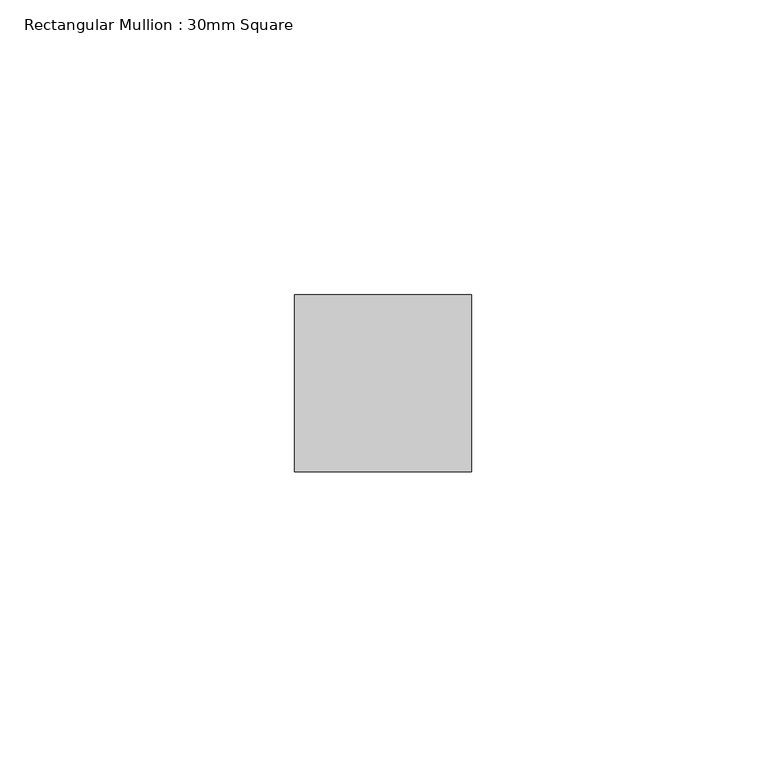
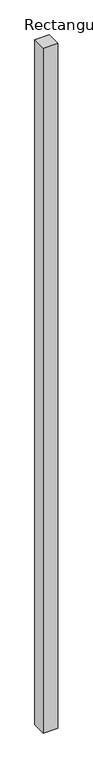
"""IFC4 building model written with IfcOpenShell, lengths in millimetres: member geometry, Rectangular Mullion : 30mm Square."""

from ifc_helpers import new_model, si_unit, frame, origin, place, context, project, spatial, polyline, outline, extrude, source, transform, mapped, element, save


def rectangular_mullion_30mm_square_0f531e6e(model_context):
    return source(origin(), model_context, "Body", "SweptSolid", [
        extrude(outline(polyline([(0.0, 15.0), (0.0, -15.0), (-30.0, -15.0), (-30.0, 15.0), (0.0, 15.0)])), frame((0.0, 0.0, -1494.0), z_axis=(0.0, 0.0, 1.0), x_axis=(1.0, 0.0, 0.0)), (0.0, 0.0, 1.0), 1494.0),
    ])


if __name__ == "__main__":
    model = new_model("IFC4")
    model_context = context("Model", 3, world=origin())
    ifc_project = project(units=[si_unit("LENGTHUNIT", "METRE", prefix="MILLI")], contexts=[model_context])
    site = spatial("IfcSite", under=ifc_project)
    building = spatial("IfcBuilding", under=site)
    placement = place(None, origin())
    rectangular_mullion_30mm_square_shape = rectangular_mullion_30mm_square_0f531e6e(model_context)
    element("IfcMember", 1, ObjectType="Rectangular Mullion : 30mm Square", at=placement, inside=building, context=model_context, shape_type="MappedRepresentation", body=[
        mapped(rectangular_mullion_30mm_square_shape, transform((0.0, 0.0, 0.0), x_axis=(1.0, 0.0, 0.0), y_axis=(0.0, 1.0, 0.0), z_axis=(0.0, 0.0, 1.0))),
    ])
    save(model, "model.ifc")
